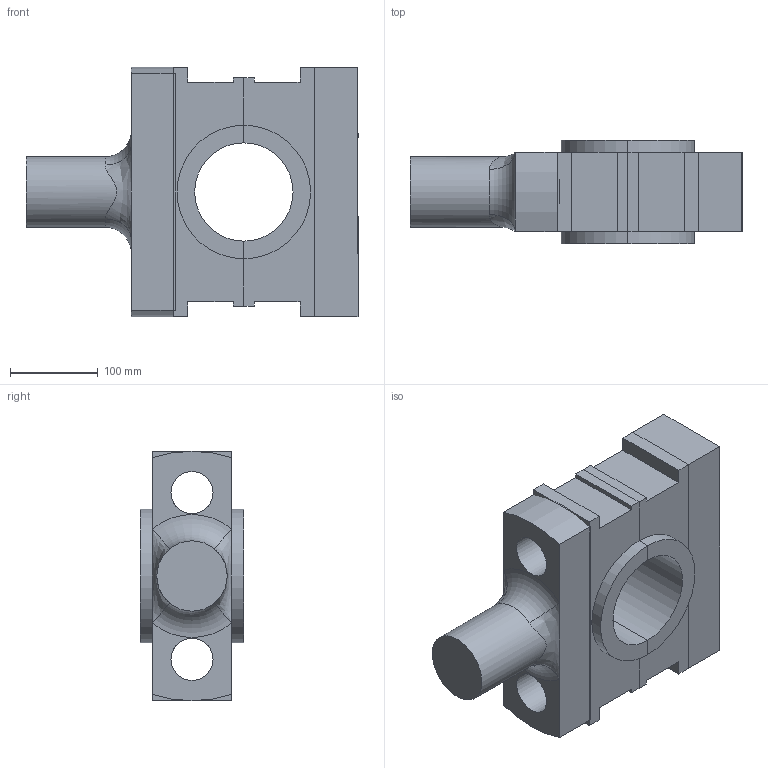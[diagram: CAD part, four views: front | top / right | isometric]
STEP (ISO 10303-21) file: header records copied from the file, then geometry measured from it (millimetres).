
FILE_DESCRIPTION((''),'2;1');
FILE_NAME('C:\Autodesk Simulation Mechanical\c07\Exe02\c07_exe02.STEP','2012-11-14T12:49:26',('Sham-2011B'),(''),'Autodesk Inventor 2012','Autodesk Inventor 2012','');
FILE_SCHEMA(('AUTOMOTIVE_DESIGN { 1 0 10303 214 1 1 1 1 }'));
Length unit declared in the file: millimetre
Products named in the file (4): Marine Engine Connection Rod; Rod End; Bearing Brass; Cover End
Assembly tree (4 placements, depth 2):
  Marine Engine Connection Rod
    Rod End
    Bearing Brass  x2
    Cover End
Bounding box: 378 x 118 x 284 mm (x, y, z)
Volume: 5294466.9 mm3; surface area: 492412.1 mm2
Topology: 4 solids, 4 shells, 95 faces, 252 edges, 169 vertices
Faces by surface type: plane 72, cylinder 19, torus 2, bspline 2
Full cylindrical faces by diameter (mm): 48 x8, 80 x1
Entity records: 2398 total; most frequent: CARTESIAN_POINT 636, DIRECTION 340, ORIENTED_EDGE 326, EDGE_CURVE 163, VECTOR 126, LINE 126, VERTEX_POINT 111, AXIS2_PLACEMENT_3D 107
